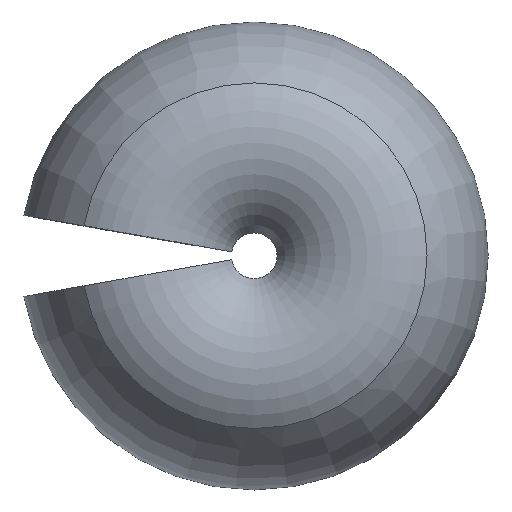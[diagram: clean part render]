
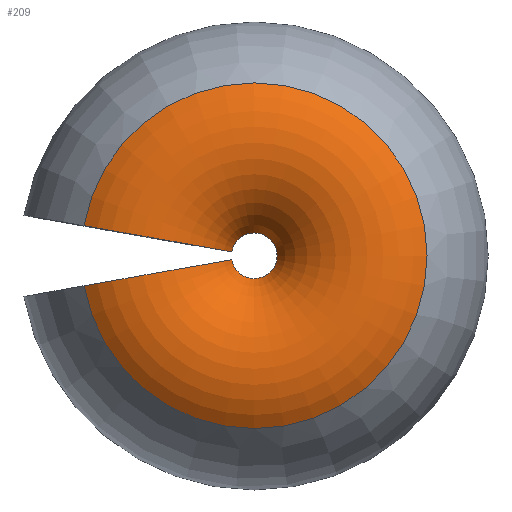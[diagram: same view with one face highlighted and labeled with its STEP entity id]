
A CAD part, top view. The second image highlights one B-rep face of the part: STEP entity #209.
In plain terms, the highlighted toroidal (fillet/blend) face has major radius 1473.98 mm and minor radius 1295 mm.
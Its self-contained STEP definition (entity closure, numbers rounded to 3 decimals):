
#7 = CIRCLE ( 'NONE', #271, 1295. ) ;
#15 = DIRECTION ( 'NONE',  ( -1., 0., 0. ) ) ;
#23 = CIRCLE ( 'NONE', #175, 300.309 ) ;
#27 = DIRECTION ( 'NONE',  ( -1., 0., 0. ) ) ;
#33 = VERTEX_POINT ( 'NONE', #234 ) ;
#37 = CIRCLE ( 'NONE', #193, 2271.26 ) ;
#43 = DIRECTION ( 'NONE',  ( 0., 0., 1. ) ) ;
#49 = CARTESIAN_POINT ( 'NONE',  ( -295.747, -52.148, 2401.971 ) ) ;
#53 = CARTESIAN_POINT ( 'NONE',  ( -295.747, 52.148, 2401.971 ) ) ;
#55 = EDGE_CURVE ( 'NONE', #225, #191, #184, .T. ) ;
#61 = AXIS2_PLACEMENT_3D ( 'NONE', #104, #190, #43 ) ;
#104 = CARTESIAN_POINT ( 'NONE',  ( -1451.586, 255.954, 1854.682 ) ) ;
#110 = DIRECTION ( 'NONE',  ( 0., 0., -1. ) ) ;
#114 = CARTESIAN_POINT ( 'NONE',  ( 0., 0., 2401.971 ) ) ;
#115 = EDGE_CURVE ( 'NONE', #225, #33, #37, .T. ) ;
#141 = ORIENTED_EDGE ( 'NONE', *, *, #178, .F. ) ;
#147 = VERTEX_POINT ( 'NONE', #49 ) ;
#158 = CARTESIAN_POINT ( 'NONE',  ( -2236.755, 394.4, 2875.156 ) ) ;
#160 = CARTESIAN_POINT ( 'NONE',  ( -1451.586, -255.954, 1854.682 ) ) ;
#161 = DIRECTION ( 'NONE',  ( 0., 0., 1. ) ) ;
#168 = EDGE_LOOP ( 'NONE', ( #188, #231, #169, #141 ) ) ;
#169 = ORIENTED_EDGE ( 'NONE', *, *, #180, .T. ) ;
#175 = AXIS2_PLACEMENT_3D ( 'NONE', #114, #206, #15 ) ;
#178 = EDGE_CURVE ( 'NONE', #33, #147, #7, .T. ) ;
#180 = EDGE_CURVE ( 'NONE', #191, #147, #23, .T. ) ;
#183 = DIRECTION ( 'NONE',  ( -1., 0., 0. ) ) ;
#184 = CIRCLE ( 'NONE', #61, 1295. ) ;
#188 = ORIENTED_EDGE ( 'NONE', *, *, #115, .F. ) ;
#190 = DIRECTION ( 'NONE',  ( 0.174, 0.985, 0. ) ) ;
#191 = VERTEX_POINT ( 'NONE', #53 ) ;
#193 = AXIS2_PLACEMENT_3D ( 'NONE', #257, #110, #27 ) ;
#206 = DIRECTION ( 'NONE',  ( 0., 0., -1. ) ) ;
#209 = ADVANCED_FACE ( 'NONE', ( #223 ), #266, .T. ) ;
#215 = AXIS2_PLACEMENT_3D ( 'NONE', #269, #268, #183 ) ;
#223 = FACE_OUTER_BOUND ( 'NONE', #168, .T. ) ;
#225 = VERTEX_POINT ( 'NONE', #158 ) ;
#231 = ORIENTED_EDGE ( 'NONE', *, *, #55, .T. ) ;
#234 = CARTESIAN_POINT ( 'NONE',  ( -2236.755, -394.4, 2875.156 ) ) ;
#246 = DIRECTION ( 'NONE',  ( -0.174, 0.985, 0. ) ) ;
#257 = CARTESIAN_POINT ( 'NONE',  ( 0., 0., 2875.156 ) ) ;
#266 = TOROIDAL_SURFACE ( 'NONE', #215, 1473.979, 1295. ) ;
#268 = DIRECTION ( 'NONE',  ( 0., 0., -1. ) ) ;
#269 = CARTESIAN_POINT ( 'NONE',  ( 0., 0., 1854.682 ) ) ;
#271 = AXIS2_PLACEMENT_3D ( 'NONE', #160, #246, #161 ) ;
